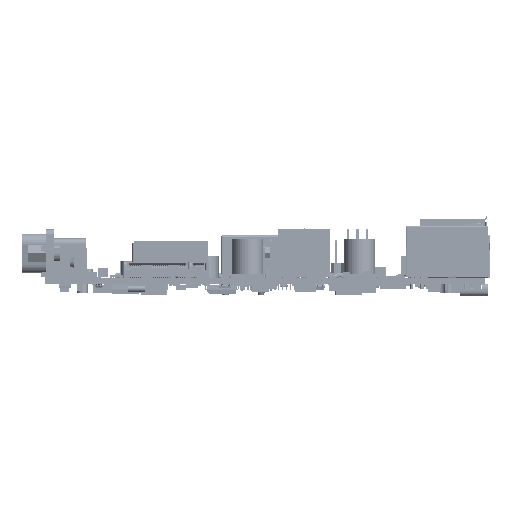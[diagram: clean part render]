
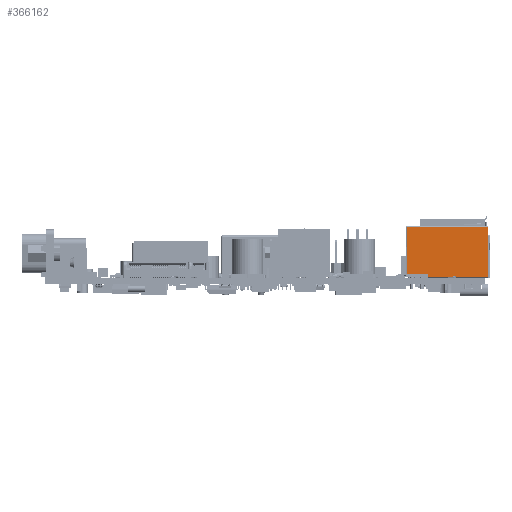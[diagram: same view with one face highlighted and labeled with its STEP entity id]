
A CAD part, left-side view. The second image highlights one B-rep face of the part: STEP entity #366162.
In plain terms, the highlighted planar face has unit normal (-1, 0, 0).
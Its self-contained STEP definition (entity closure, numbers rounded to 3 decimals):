
#356607=DIRECTION('',(0.,0.,1.));
#356608=VECTOR('',#356607,6.617);
#356609=CARTESIAN_POINT('',(-8.02,-6.45,-15.45));
#356610=LINE('',#356609,#356608);
#358251=DIRECTION('',(0.,-1.,0.));
#358252=VECTOR('',#358251,12.15);
#358253=CARTESIAN_POINT('',(-8.02,6.65,
-20.95));
#358254=LINE('',#358253,#358252);
#358258=DIRECTION('',(0.,0.,-1.));
#358259=VECTOR('',#358258,21.);
#358260=CARTESIAN_POINT('',(-8.02,6.65,0.05));
#358261=LINE('',#358260,#358259);
#358265=DIRECTION('',(0.,-1.,0.));
#358266=VECTOR('',#358265,13.1);
#358267=CARTESIAN_POINT('',(-8.02,6.65,0.05));
#358268=LINE('',#358267,#358266);
#358272=DIRECTION('',(0.,0.,-1.));
#358273=VECTOR('',#358272,8.2);
#358274=CARTESIAN_POINT('',(-8.02,-6.45,0.05));
#358275=LINE('',#358274,#358273);
#358279=CARTESIAN_POINT('',(-8.02,-6.35,-8.15));
#358280=DIRECTION('',(1.,0.,0.));
#358281=DIRECTION('',(0.,-1.,0.));
#358282=AXIS2_PLACEMENT_3D('',#358279,#358280,#358281);
#358287=CARTESIAN_POINT('',(-8.02,-6.35,-8.55));
#358288=DIRECTION('',(-1.,0.,0.));
#358289=DIRECTION('',(0.,0.,1.));
#358290=AXIS2_PLACEMENT_3D('',#358287,#358288,#358289);
#358295=DIRECTION('',(0.,1.,0.));
#358296=VECTOR('',#358295,0.95);
#358297=CARTESIAN_POINT('',(-8.02,-6.45,-15.45));
#358298=LINE('',#358297,#358296);
#358302=DIRECTION('',(0.,0.,-1.));
#358303=VECTOR('',#358302,5.5);
#358304=CARTESIAN_POINT('',(-8.02,-5.5,-15.45));
#358305=LINE('',#358304,#358303);
#362602=CARTESIAN_POINT('',(-8.02,-5.5,-15.45));
#362603=VERTEX_POINT('',#362602);
#362789=CARTESIAN_POINT('',(-8.02,-6.45,-15.45));
#362791=VERTEX_POINT('',#362789);
#362810=CARTESIAN_POINT('',(-8.02,-6.45,-8.15));
#362811=CARTESIAN_POINT('',(-8.02,-6.35,-8.25));
#362812=VERTEX_POINT('',#362810);
#362813=VERTEX_POINT('',#362811);
#362818=CARTESIAN_POINT('',(-8.02,-6.45,-8.833));
#362819=VERTEX_POINT('',#362818);
#362852=CARTESIAN_POINT('',(-8.02,-6.45,0.05));
#362854=VERTEX_POINT('',#362852);
#362860=CARTESIAN_POINT('',(-8.02,6.65,0.05));
#362861=VERTEX_POINT('',#362860);
#362890=CARTESIAN_POINT('',(-8.02,-5.5,-20.95));
#362892=VERTEX_POINT('',#362890);
#362894=CARTESIAN_POINT('',(-8.02,6.65,
-20.95));
#362895=VERTEX_POINT('',#362894);
#366143=CARTESIAN_POINT('',(-8.02,0.,0.));
#366144=DIRECTION('',(1.,0.,0.));
#366145=DIRECTION('',(0.,1.,0.));
#366146=AXIS2_PLACEMENT_3D('',#366143,#366144,#366145);
#366147=PLANE('',#366146);
#366149=ORIENTED_EDGE('',*,*,#366148,.F.);
#366151=ORIENTED_EDGE('',*,*,#366150,.F.);
#366152=ORIENTED_EDGE('',*,*,#365756,.T.);
#366153=ORIENTED_EDGE('',*,*,#365784,.T.);
#366154=ORIENTED_EDGE('',*,*,#365798,.T.);
#366155=ORIENTED_EDGE('',*,*,#365973,.T.);
#366156=ORIENTED_EDGE('',*,*,#364729,.F.);
#366157=ORIENTED_EDGE('',*,*,#364916,.T.);
#366159=ORIENTED_EDGE('',*,*,#366158,.T.);
#366160=EDGE_LOOP('',(#366149,#366151,#366152,#366153,#366154,#366155,#366156,
#366157,#366159));
#366161=FACE_OUTER_BOUND('',#366160,.F.);
#366162=ADVANCED_FACE('',(#366161),#366147,.F.);
#358283=CIRCLE('',#358282,0.1);
#358291=CIRCLE('',#358290,0.3);
#364729=EDGE_CURVE('',#362791,#362819,#356610,.T.);
#364916=EDGE_CURVE('',#362791,#362603,#358298,.T.);
#365756=EDGE_CURVE('',#362861,#362854,#358268,.T.);
#365784=EDGE_CURVE('',#362854,#362812,#358275,.T.);
#365798=EDGE_CURVE('',#362812,#362813,#358283,.T.);
#365973=EDGE_CURVE('',#362813,#362819,#358291,.T.);
#366148=EDGE_CURVE('',#362895,#362892,#358254,.T.);
#366150=EDGE_CURVE('',#362861,#362895,#358261,.T.);
#366158=EDGE_CURVE('',#362603,#362892,#358305,.T.);
